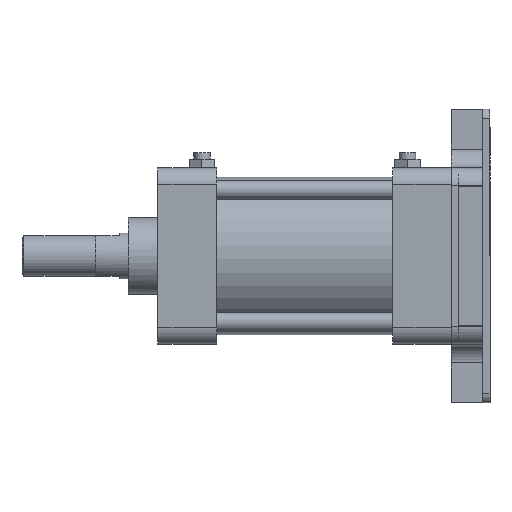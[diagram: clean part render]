
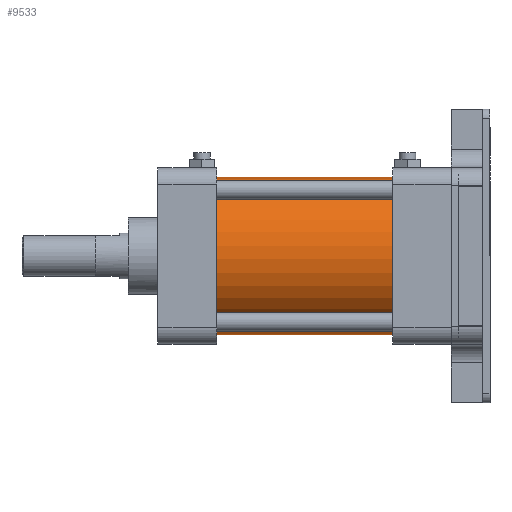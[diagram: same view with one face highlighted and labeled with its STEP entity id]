
A CAD part, front view. The second image highlights one B-rep face of the part: STEP entity #9533.
In plain terms, the highlighted cylindrical face has radius 43 mm (diameter 86 mm), a partial arc.
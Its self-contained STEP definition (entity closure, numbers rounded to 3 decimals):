
#76 = LINE ( 'NONE', #7778, #4870 ) ;
#143 = AXIS2_PLACEMENT_3D ( 'NONE', #5980, #1638, #9076 ) ;
#154 = EDGE_CURVE ( 'NONE', #4086, #3235, #1974, .T. ) ;
#538 = EDGE_LOOP ( 'NONE', ( #3745, #7118, #4361, #539 ) ) ;
#539 = ORIENTED_EDGE ( 'NONE', *, *, #1102, .F. ) ;
#1102 = EDGE_CURVE ( 'NONE', #3235, #7887, #7859, .T. ) ;
#1362 = CARTESIAN_POINT ( 'NONE',  ( 48., 0., 0. ) ) ;
#1479 = CARTESIAN_POINT ( 'NONE',  ( 48., 0., 43. ) ) ;
#1638 = DIRECTION ( 'NONE',  ( -1., 0., 0. ) ) ;
#1974 = LINE ( 'NONE', #2289, #3826 ) ;
#2289 = CARTESIAN_POINT ( 'NONE',  ( -29.1, 0., -43. ) ) ;
#2324 = DIRECTION ( 'NONE',  ( -1., 0., 0. ) ) ;
#2347 = DIRECTION ( 'NONE',  ( 0., 0., 1. ) ) ;
#2678 = DIRECTION ( 'NONE',  ( -1., 0., 0. ) ) ;
#2766 = EDGE_CURVE ( 'NONE', #7862, #7887, #76, .T. ) ;
#3235 = VERTEX_POINT ( 'NONE', #3248 ) ;
#3248 = CARTESIAN_POINT ( 'NONE',  ( -48., 0., -43. ) ) ;
#3296 = DIRECTION ( 'NONE',  ( -1., 0., 0. ) ) ;
#3615 = CARTESIAN_POINT ( 'NONE',  ( -48., 0., 43. ) ) ;
#3745 = ORIENTED_EDGE ( 'NONE', *, *, #154, .F. ) ;
#3826 = VECTOR ( 'NONE', #3296, 1000. ) ;
#3869 = AXIS2_PLACEMENT_3D ( 'NONE', #6712, #2678, #2347 ) ;
#4086 = VERTEX_POINT ( 'NONE', #7365 ) ;
#4215 = CIRCLE ( 'NONE', #8738, 43. ) ;
#4361 = ORIENTED_EDGE ( 'NONE', *, *, #2766, .T. ) ;
#4870 = VECTOR ( 'NONE', #2324, 1000. ) ;
#5206 = CYLINDRICAL_SURFACE ( 'NONE', #143, 43. ) ;
#5980 = CARTESIAN_POINT ( 'NONE',  ( -29.1, 0., 0. ) ) ;
#6143 = FACE_OUTER_BOUND ( 'NONE', #538, .T. ) ;
#6692 = DIRECTION ( 'NONE',  ( 0., 0., 1. ) ) ;
#6712 = CARTESIAN_POINT ( 'NONE',  ( -48., 0., 0. ) ) ;
#7039 = DIRECTION ( 'NONE',  ( -1., 0., 0. ) ) ;
#7118 = ORIENTED_EDGE ( 'NONE', *, *, #8047, .T. ) ;
#7365 = CARTESIAN_POINT ( 'NONE',  ( 48., 0., -43. ) ) ;
#7778 = CARTESIAN_POINT ( 'NONE',  ( -29.1, 0., 43. ) ) ;
#7859 = CIRCLE ( 'NONE', #3869, 43. ) ;
#7862 = VERTEX_POINT ( 'NONE', #1479 ) ;
#7887 = VERTEX_POINT ( 'NONE', #3615 ) ;
#8047 = EDGE_CURVE ( 'NONE', #4086, #7862, #4215, .T. ) ;
#8738 = AXIS2_PLACEMENT_3D ( 'NONE', #1362, #7039, #6692 ) ;
#9076 = DIRECTION ( 'NONE',  ( 0., 0., 1. ) ) ;
#9533 = ADVANCED_FACE ( 'NONE', ( #6143 ), #5206, .T. ) ;
